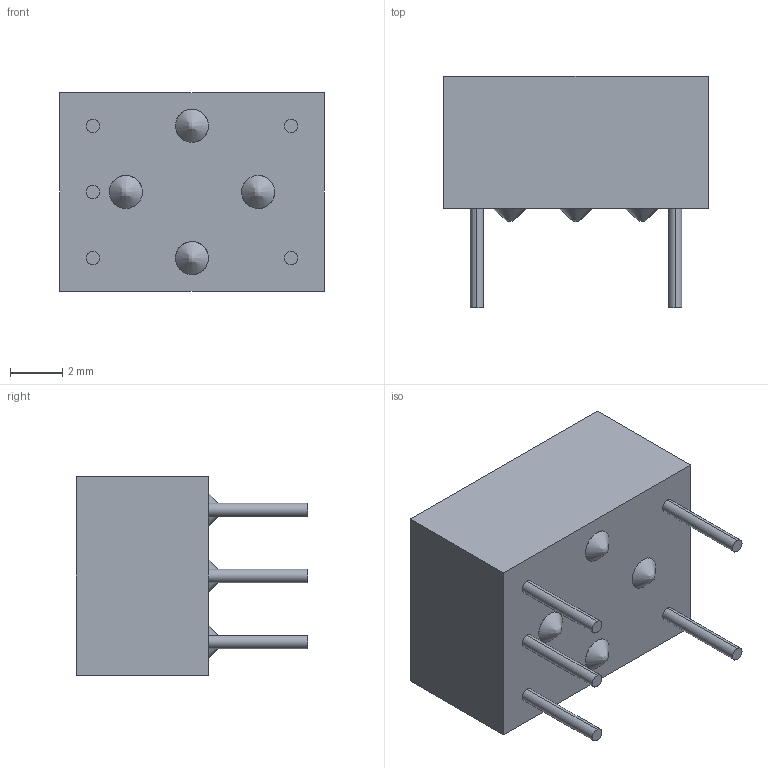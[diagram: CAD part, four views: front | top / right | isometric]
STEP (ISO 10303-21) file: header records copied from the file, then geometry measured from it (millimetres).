
FILE_DESCRIPTION (( 'STEP AP214' ), '1' );
FILE_NAME ('PE-65779NL_3D.STEP', '2018-06-25T02:43:43', ( '' ), ( '' ), 'SwSTEP 2.0', 'SolidWorks 2015', '' );
FILE_SCHEMA (( 'AUTOMOTIVE_DESIGN' ));
Length unit declared in the file: millimetre
Products named in the file (1): PE-65779NL_3D
Bounding box: 10.16 x 8.89 x 7.62 mm (x, y, z)
Volume: 398.3 mm3; surface area: 368 mm2
Topology: 1 solids, 1 shells, 36 faces, 72 edges, 48 vertices
Faces by surface type: cylinder 20, plane 12, bspline 4
Entity records: 1614 total; most frequent: CARTESIAN_POINT 817, DIRECTION 162, ORIENTED_EDGE 144, EDGE_CURVE 72, AXIS2_PLACEMENT_3D 65, VERTEX_POINT 48, EDGE_LOOP 46, ADVANCED_FACE 36
